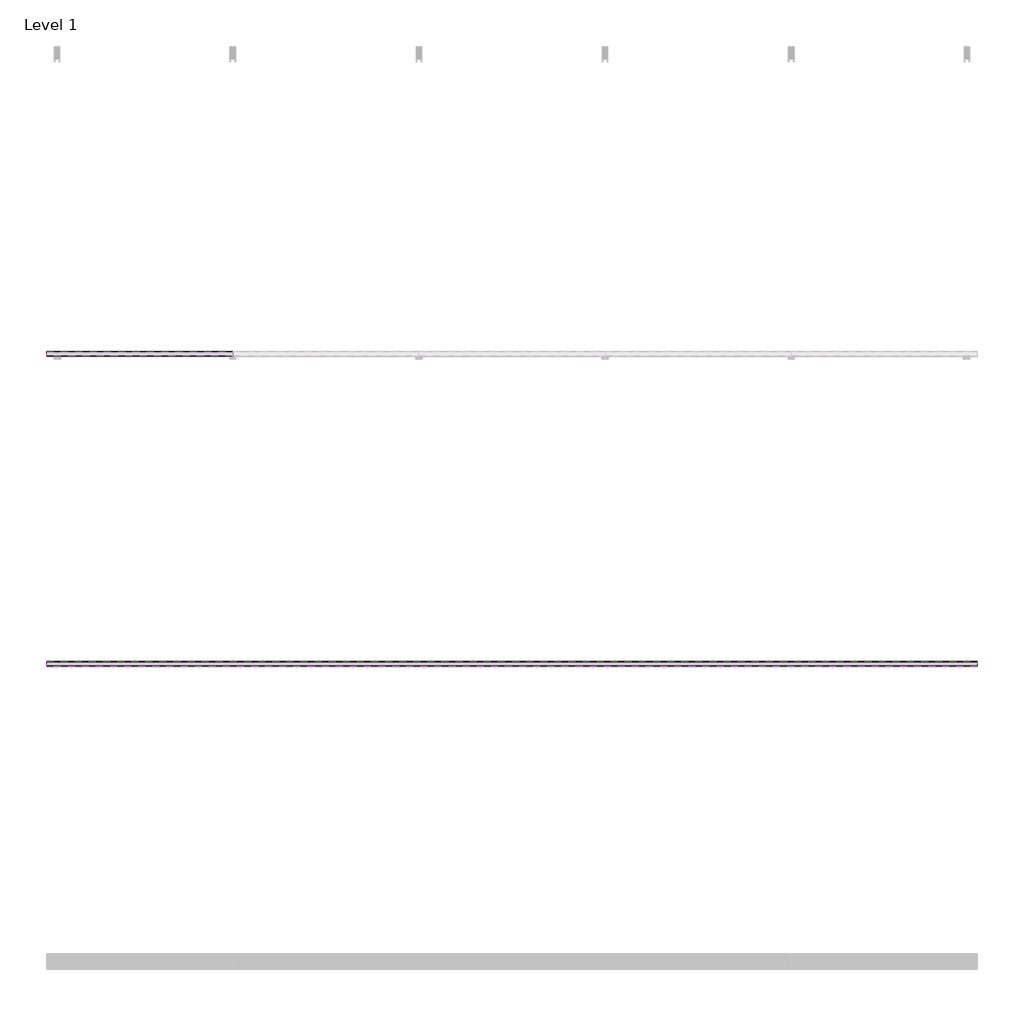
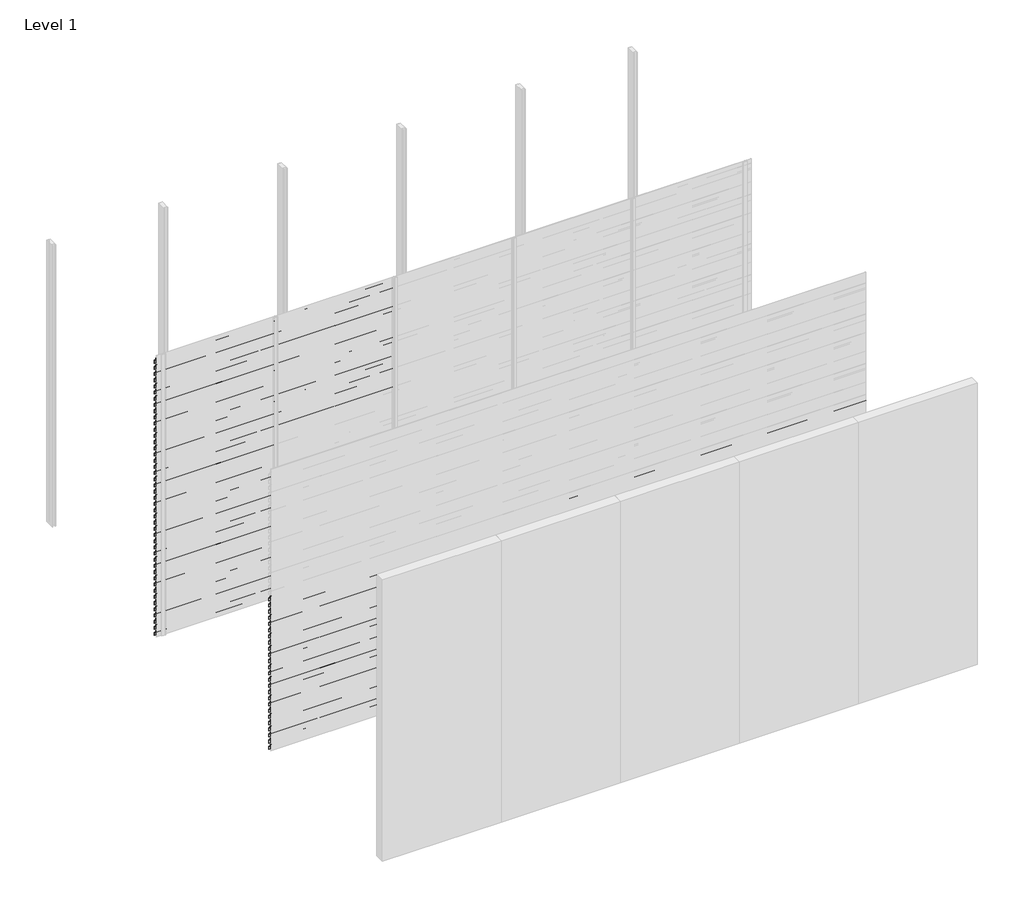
# One storey, part 19 of 33: 88 proxies.
"""IFC4 building model written with IfcOpenShell, lengths in millimetres."""

from ifc_helpers import new_model, si_unit, frame, origin, place, context, project, spatial, polyline, outline, extrude, element, save

model = new_model("IFC4")

# Units and contexts
model_context = context("Model", 3, world=origin())
ifc_project = project(units=[si_unit("LENGTHUNIT", "METRE", prefix="MILLI")], contexts=[model_context])

# Site, building, storey
site = spatial("IfcSite", under=ifc_project)
building = spatial("IfcBuilding", under=site)
storey = spatial("IfcBuildingStorey", under=building, Name="Level 1", Elevation=0.0)

# Proxies
placement = place(None, origin())
element("IfcBuildingElementProxy", 1, Name="Wall Sweeps", at=placement, inside=storey, context=model_context, shape_type="SweptSolid", body=[
    extrude(outline(polyline([(-23967.0, 2930.0), (-23967.0, 2897.0), (-23968.25, 2897.7216933), (-23968.25, 2929.2872415), (-23998.0, 2950.0588647), (-23998.0, 2970.0), (-23996.75, 2970.0), (-23996.75, 2950.7716232), (-23967.0, 2930.0)])), frame((0.0, 0.0, 0.0), z_axis=(1.0, 0.0, 0.0), x_axis=(0.0, 1.0, 0.0)), (0.0, 0.0, 1.0), 1200.0),
])
element("IfcBuildingElementProxy", 2, Name="Wall Sweeps", at=placement, inside=storey, context=model_context, shape_type="SweptSolid", body=[
    extrude(outline(polyline([(-23967.0, 2864.0), (-23967.0, 2831.0), (-23968.25, 2831.7216933), (-23968.25, 2863.2872415), (-23998.0, 2884.0588647), (-23998.0, 2904.0), (-23996.75, 2904.0), (-23996.75, 2884.7716232), (-23967.0, 2864.0)])), frame((0.0, 0.0, 0.0), z_axis=(1.0, 0.0, 0.0), x_axis=(0.0, 1.0, 0.0)), (0.0, 0.0, 1.0), 1200.0),
])
element("IfcBuildingElementProxy", 3, Name="Wall Sweeps", at=placement, inside=storey, context=model_context, shape_type="SweptSolid", body=[
    extrude(outline(polyline([(-23967.0, 2798.0), (-23967.0, 2765.0), (-23968.25, 2765.7216933), (-23968.25, 2797.2872415), (-23998.0, 2818.0588647), (-23998.0, 2838.0), (-23996.75, 2838.0), (-23996.75, 2818.7716232), (-23967.0, 2798.0)])), frame((0.0, 0.0, 0.0), z_axis=(1.0, 0.0, 0.0), x_axis=(0.0, 1.0, 0.0)), (0.0, 0.0, 1.0), 1200.0),
])
element("IfcBuildingElementProxy", 4, Name="Wall Sweeps", at=placement, inside=storey, context=model_context, shape_type="SweptSolid", body=[
    extrude(outline(polyline([(-23967.0, 2732.0), (-23967.0, 2699.0), (-23968.25, 2699.7216933), (-23968.25, 2731.2872415), (-23998.0, 2752.0588647), (-23998.0, 2772.0), (-23996.75, 2772.0), (-23996.75, 2752.7716232), (-23967.0, 2732.0)])), frame((0.0, 0.0, 0.0), z_axis=(1.0, 0.0, 0.0), x_axis=(0.0, 1.0, 0.0)), (0.0, 0.0, 1.0), 1200.0),
])
element("IfcBuildingElementProxy", 5, Name="Wall Sweeps", at=placement, inside=storey, context=model_context, shape_type="SweptSolid", body=[
    extrude(outline(polyline([(-23967.0, 2666.0), (-23967.0, 2633.0), (-23968.25, 2633.7216933), (-23968.25, 2665.2872415), (-23998.0, 2686.0588647), (-23998.0, 2706.0), (-23996.75, 2706.0), (-23996.75, 2686.7716232), (-23967.0, 2666.0)])), frame((0.0, 0.0, 0.0), z_axis=(1.0, 0.0, 0.0), x_axis=(0.0, 1.0, 0.0)), (0.0, 0.0, 1.0), 1200.0),
])
element("IfcBuildingElementProxy", 6, Name="Wall Sweeps", at=placement, inside=storey, context=model_context, shape_type="SweptSolid", body=[
    extrude(outline(polyline([(-23967.0, 2600.0), (-23967.0, 2567.0), (-23968.25, 2567.7216933), (-23968.25, 2599.2872415), (-23998.0, 2620.0588647), (-23998.0, 2640.0), (-23996.75, 2640.0), (-23996.75, 2620.7716232), (-23967.0, 2600.0)])), frame((0.0, 0.0, 0.0), z_axis=(1.0, 0.0, 0.0), x_axis=(0.0, 1.0, 0.0)), (0.0, 0.0, 1.0), 1200.0),
])
element("IfcBuildingElementProxy", 7, Name="Wall Sweeps", at=placement, inside=storey, context=model_context, shape_type="SweptSolid", body=[
    extrude(outline(polyline([(-23967.0, 2534.0), (-23967.0, 2501.0), (-23968.25, 2501.7216933), (-23968.25, 2533.2872415), (-23998.0, 2554.0588647), (-23998.0, 2574.0), (-23996.75, 2574.0), (-23996.75, 2554.7716232), (-23967.0, 2534.0)])), frame((0.0, 0.0, 0.0), z_axis=(1.0, 0.0, 0.0), x_axis=(0.0, 1.0, 0.0)), (0.0, 0.0, 1.0), 1200.0),
])
element("IfcBuildingElementProxy", 8, Name="Wall Sweeps", at=placement, inside=storey, context=model_context, shape_type="SweptSolid", body=[
    extrude(outline(polyline([(-23967.0, 2468.0), (-23967.0, 2435.0), (-23968.25, 2435.7216933), (-23968.25, 2467.2872415), (-23998.0, 2488.0588647), (-23998.0, 2508.0), (-23996.75, 2508.0), (-23996.75, 2488.7716232), (-23967.0, 2468.0)])), frame((0.0, 0.0, 0.0), z_axis=(1.0, 0.0, 0.0), x_axis=(0.0, 1.0, 0.0)), (0.0, 0.0, 1.0), 1200.0),
])
element("IfcBuildingElementProxy", 9, Name="Wall Sweeps", at=placement, inside=storey, context=model_context, shape_type="SweptSolid", body=[
    extrude(outline(polyline([(-23967.0, 2402.0), (-23967.0, 2369.0), (-23968.25, 2369.7216933), (-23968.25, 2401.2872415), (-23998.0, 2422.0588647), (-23998.0, 2442.0), (-23996.75, 2442.0), (-23996.75, 2422.7716232), (-23967.0, 2402.0)])), frame((0.0, 0.0, 0.0), z_axis=(1.0, 0.0, 0.0), x_axis=(0.0, 1.0, 0.0)), (0.0, 0.0, 1.0), 1200.0),
])
element("IfcBuildingElementProxy", 10, Name="Wall Sweeps", at=placement, inside=storey, context=model_context, shape_type="SweptSolid", body=[
    extrude(outline(polyline([(-23967.0, 2336.0), (-23967.0, 2303.0), (-23968.25, 2303.7216933), (-23968.25, 2335.2872415), (-23998.0, 2356.0588647), (-23998.0, 2376.0), (-23996.75, 2376.0), (-23996.75, 2356.7716232), (-23967.0, 2336.0)])), frame((0.0, 0.0, 0.0), z_axis=(1.0, 0.0, 0.0), x_axis=(0.0, 1.0, 0.0)), (0.0, 0.0, 1.0), 1200.0),
])
element("IfcBuildingElementProxy", 11, Name="Wall Sweeps", at=placement, inside=storey, context=model_context, shape_type="SweptSolid", body=[
    extrude(outline(polyline([(-23967.0, 2270.0), (-23967.0, 2237.0), (-23968.25, 2237.7216933), (-23968.25, 2269.2872415), (-23998.0, 2290.0588647), (-23998.0, 2310.0), (-23996.75, 2310.0), (-23996.75, 2290.7716232), (-23967.0, 2270.0)])), frame((0.0, 0.0, 0.0), z_axis=(1.0, 0.0, 0.0), x_axis=(0.0, 1.0, 0.0)), (0.0, 0.0, 1.0), 1200.0),
])
element("IfcBuildingElementProxy", 12, Name="Wall Sweeps", at=placement, inside=storey, context=model_context, shape_type="SweptSolid", body=[
    extrude(outline(polyline([(-23967.0, 2204.0), (-23967.0, 2171.0), (-23968.25, 2171.7216933), (-23968.25, 2203.2872415), (-23998.0, 2224.0588647), (-23998.0, 2244.0), (-23996.75, 2244.0), (-23996.75, 2224.7716232), (-23967.0, 2204.0)])), frame((0.0, 0.0, 0.0), z_axis=(1.0, 0.0, 0.0), x_axis=(0.0, 1.0, 0.0)), (0.0, 0.0, 1.0), 1200.0),
])
element("IfcBuildingElementProxy", 13, Name="Wall Sweeps", at=placement, inside=storey, context=model_context, shape_type="SweptSolid", body=[
    extrude(outline(polyline([(-23967.0, 2138.0), (-23967.0, 2105.0), (-23968.25, 2105.7216933), (-23968.25, 2137.2872415), (-23998.0, 2158.0588647), (-23998.0, 2178.0), (-23996.75, 2178.0), (-23996.75, 2158.7716232), (-23967.0, 2138.0)])), frame((0.0, 0.0, 0.0), z_axis=(1.0, 0.0, 0.0), x_axis=(0.0, 1.0, 0.0)), (0.0, 0.0, 1.0), 1200.0),
])
element("IfcBuildingElementProxy", 14, Name="Wall Sweeps", at=placement, inside=storey, context=model_context, shape_type="SweptSolid", body=[
    extrude(outline(polyline([(-23967.0, 2072.0), (-23967.0, 2039.0), (-23968.25, 2039.7216933), (-23968.25, 2071.2872415), (-23998.0, 2092.0588647), (-23998.0, 2112.0), (-23996.75, 2112.0), (-23996.75, 2092.7716232), (-23967.0, 2072.0)])), frame((0.0, 0.0, 0.0), z_axis=(1.0, 0.0, 0.0), x_axis=(0.0, 1.0, 0.0)), (0.0, 0.0, 1.0), 1200.0),
])
element("IfcBuildingElementProxy", 15, Name="Wall Sweeps", at=placement, inside=storey, context=model_context, shape_type="SweptSolid", body=[
    extrude(outline(polyline([(-23967.0, 2006.0), (-23967.0, 1973.0), (-23968.25, 1973.7216933), (-23968.25, 2005.2872415), (-23998.0, 2026.0588647), (-23998.0, 2046.0), (-23996.75, 2046.0), (-23996.75, 2026.7716232), (-23967.0, 2006.0)])), frame((0.0, 0.0, 0.0), z_axis=(1.0, 0.0, 0.0), x_axis=(0.0, 1.0, 0.0)), (0.0, 0.0, 1.0), 1200.0),
])
element("IfcBuildingElementProxy", 16, Name="Wall Sweeps", at=placement, inside=storey, context=model_context, shape_type="SweptSolid", body=[
    extrude(outline(polyline([(-23967.0, 1940.0), (-23967.0, 1907.0), (-23968.25, 1907.7216933), (-23968.25, 1939.2872415), (-23998.0, 1960.0588647), (-23998.0, 1980.0), (-23996.75, 1980.0), (-23996.75, 1960.7716232), (-23967.0, 1940.0)])), frame((0.0, 0.0, 0.0), z_axis=(1.0, 0.0, 0.0), x_axis=(0.0, 1.0, 0.0)), (0.0, 0.0, 1.0), 1200.0),
])
element("IfcBuildingElementProxy", 17, Name="Wall Sweeps", at=placement, inside=storey, context=model_context, shape_type="SweptSolid", body=[
    extrude(outline(polyline([(-23967.0, 1874.0), (-23967.0, 1841.0), (-23968.25, 1841.7216933), (-23968.25, 1873.2872415), (-23998.0, 1894.0588647), (-23998.0, 1914.0), (-23996.75, 1914.0), (-23996.75, 1894.7716232), (-23967.0, 1874.0)])), frame((0.0, 0.0, 0.0), z_axis=(1.0, 0.0, 0.0), x_axis=(0.0, 1.0, 0.0)), (0.0, 0.0, 1.0), 1200.0),
])
element("IfcBuildingElementProxy", 18, Name="Wall Sweeps", at=placement, inside=storey, context=model_context, shape_type="SweptSolid", body=[
    extrude(outline(polyline([(-23967.0, 1808.0), (-23967.0, 1775.0), (-23968.25, 1775.7216933), (-23968.25, 1807.2872415), (-23998.0, 1828.0588647), (-23998.0, 1848.0), (-23996.75, 1848.0), (-23996.75, 1828.7716232), (-23967.0, 1808.0)])), frame((0.0, 0.0, 0.0), z_axis=(1.0, 0.0, 0.0), x_axis=(0.0, 1.0, 0.0)), (0.0, 0.0, 1.0), 1200.0),
])
element("IfcBuildingElementProxy", 19, Name="Wall Sweeps", at=placement, inside=storey, context=model_context, shape_type="SweptSolid", body=[
    extrude(outline(polyline([(-23967.0, 1742.0), (-23967.0, 1709.0), (-23968.25, 1709.7216933), (-23968.25, 1741.2872415), (-23998.0, 1762.0588647), (-23998.0, 1782.0), (-23996.75, 1782.0), (-23996.75, 1762.7716232), (-23967.0, 1742.0)])), frame((0.0, 0.0, 0.0), z_axis=(1.0, 0.0, 0.0), x_axis=(0.0, 1.0, 0.0)), (0.0, 0.0, 1.0), 1200.0),
])
element("IfcBuildingElementProxy", 20, Name="Wall Sweeps", at=placement, inside=storey, context=model_context, shape_type="SweptSolid", body=[
    extrude(outline(polyline([(-23967.0, 1676.0), (-23967.0, 1643.0), (-23968.25, 1643.7216933), (-23968.25, 1675.2872415), (-23998.0, 1696.0588647), (-23998.0, 1716.0), (-23996.75, 1716.0), (-23996.75, 1696.7716232), (-23967.0, 1676.0)])), frame((0.0, 0.0, 0.0), z_axis=(1.0, 0.0, 0.0), x_axis=(0.0, 1.0, 0.0)), (0.0, 0.0, 1.0), 1200.0),
])
element("IfcBuildingElementProxy", 21, Name="Wall Sweeps", at=placement, inside=storey, context=model_context, shape_type="SweptSolid", body=[
    extrude(outline(polyline([(-23967.0, 1610.0), (-23967.0, 1577.0), (-23968.25, 1577.7216933), (-23968.25, 1609.2872415), (-23998.0, 1630.0588647), (-23998.0, 1650.0), (-23996.75, 1650.0), (-23996.75, 1630.7716232), (-23967.0, 1610.0)])), frame((0.0, 0.0, 0.0), z_axis=(1.0, 0.0, 0.0), x_axis=(0.0, 1.0, 0.0)), (0.0, 0.0, 1.0), 1200.0),
])
element("IfcBuildingElementProxy", 22, Name="Wall Sweeps", at=placement, inside=storey, context=model_context, shape_type="SweptSolid", body=[
    extrude(outline(polyline([(-23967.0, 1544.0), (-23967.0, 1511.0), (-23968.25, 1511.7216933), (-23968.25, 1543.2872415), (-23998.0, 1564.0588647), (-23998.0, 1584.0), (-23996.75, 1584.0), (-23996.75, 1564.7716232), (-23967.0, 1544.0)])), frame((0.0, 0.0, 0.0), z_axis=(1.0, 0.0, 0.0), x_axis=(0.0, 1.0, 0.0)), (0.0, 0.0, 1.0), 1200.0),
])
element("IfcBuildingElementProxy", 23, Name="Wall Sweeps", at=placement, inside=storey, context=model_context, shape_type="SweptSolid", body=[
    extrude(outline(polyline([(-23967.0, 1478.0), (-23967.0, 1445.0), (-23968.25, 1445.7216933), (-23968.25, 1477.2872415), (-23998.0, 1498.0588647), (-23998.0, 1518.0), (-23996.75, 1518.0), (-23996.75, 1498.7716232), (-23967.0, 1478.0)])), frame((0.0, 0.0, 0.0), z_axis=(1.0, 0.0, 0.0), x_axis=(0.0, 1.0, 0.0)), (0.0, 0.0, 1.0), 1200.0),
])
element("IfcBuildingElementProxy", 24, Name="Wall Sweeps", at=placement, inside=storey, context=model_context, shape_type="SweptSolid", body=[
    extrude(outline(polyline([(-23967.0, 1412.0), (-23967.0, 1379.0), (-23968.25, 1379.7216933), (-23968.25, 1411.2872415), (-23998.0, 1432.0588647), (-23998.0, 1452.0), (-23996.75, 1452.0), (-23996.75, 1432.7716232), (-23967.0, 1412.0)])), frame((0.0, 0.0, 0.0), z_axis=(1.0, 0.0, 0.0), x_axis=(0.0, 1.0, 0.0)), (0.0, 0.0, 1.0), 1200.0),
])
element("IfcBuildingElementProxy", 25, Name="Wall Sweeps", at=placement, inside=storey, context=model_context, shape_type="SweptSolid", body=[
    extrude(outline(polyline([(-23967.0, 1346.0), (-23967.0, 1313.0), (-23968.25, 1313.7216933), (-23968.25, 1345.2872415), (-23998.0, 1366.0588647), (-23998.0, 1386.0), (-23996.75, 1386.0), (-23996.75, 1366.7716232), (-23967.0, 1346.0)])), frame((0.0, 0.0, 0.0), z_axis=(1.0, 0.0, 0.0), x_axis=(0.0, 1.0, 0.0)), (0.0, 0.0, 1.0), 1200.0),
])
element("IfcBuildingElementProxy", 26, Name="Wall Sweeps", at=placement, inside=storey, context=model_context, shape_type="SweptSolid", body=[
    extrude(outline(polyline([(-23967.0, 1280.0), (-23967.0, 1247.0), (-23968.25, 1247.7216933), (-23968.25, 1279.2872415), (-23998.0, 1300.0588647), (-23998.0, 1320.0), (-23996.75, 1320.0), (-23996.75, 1300.7716232), (-23967.0, 1280.0)])), frame((0.0, 0.0, 0.0), z_axis=(1.0, 0.0, 0.0), x_axis=(0.0, 1.0, 0.0)), (0.0, 0.0, 1.0), 1200.0),
])
element("IfcBuildingElementProxy", 27, Name="Wall Sweeps", at=placement, inside=storey, context=model_context, shape_type="SweptSolid", body=[
    extrude(outline(polyline([(-23967.0, 1214.0), (-23967.0, 1181.0), (-23968.25, 1181.7216933), (-23968.25, 1213.2872415), (-23998.0, 1234.0588647), (-23998.0, 1254.0), (-23996.75, 1254.0), (-23996.75, 1234.7716232), (-23967.0, 1214.0)])), frame((0.0, 0.0, 0.0), z_axis=(1.0, 0.0, 0.0), x_axis=(0.0, 1.0, 0.0)), (0.0, 0.0, 1.0), 1200.0),
])
element("IfcBuildingElementProxy", 28, Name="Wall Sweeps", at=placement, inside=storey, context=model_context, shape_type="SweptSolid", body=[
    extrude(outline(polyline([(-23967.0, 1148.0), (-23967.0, 1115.0), (-23968.25, 1115.7216933), (-23968.25, 1147.2872415), (-23998.0, 1168.0588647), (-23998.0, 1188.0), (-23996.75, 1188.0), (-23996.75, 1168.7716232), (-23967.0, 1148.0)])), frame((0.0, 0.0, 0.0), z_axis=(1.0, 0.0, 0.0), x_axis=(0.0, 1.0, 0.0)), (0.0, 0.0, 1.0), 1200.0),
])
element("IfcBuildingElementProxy", 29, Name="Wall Sweeps", at=placement, inside=storey, context=model_context, shape_type="SweptSolid", body=[
    extrude(outline(polyline([(-23967.0, 1082.0), (-23967.0, 1049.0), (-23968.25, 1049.7216933), (-23968.25, 1081.2872415), (-23998.0, 1102.0588647), (-23998.0, 1122.0), (-23996.75, 1122.0), (-23996.75, 1102.7716232), (-23967.0, 1082.0)])), frame((0.0, 0.0, 0.0), z_axis=(1.0, 0.0, 0.0), x_axis=(0.0, 1.0, 0.0)), (0.0, 0.0, 1.0), 1200.0),
])
element("IfcBuildingElementProxy", 30, Name="Wall Sweeps", at=placement, inside=storey, context=model_context, shape_type="SweptSolid", body=[
    extrude(outline(polyline([(-23967.0, 1016.0), (-23967.0, 983.0), (-23968.25, 983.7216933), (-23968.25, 1015.2872415), (-23998.0, 1036.0588647), (-23998.0, 1056.0), (-23996.75, 1056.0), (-23996.75, 1036.7716232), (-23967.0, 1016.0)])), frame((0.0, 0.0, 0.0), z_axis=(1.0, 0.0, 0.0), x_axis=(0.0, 1.0, 0.0)), (0.0, 0.0, 1.0), 1200.0),
])
element("IfcBuildingElementProxy", 31, Name="Wall Sweeps", at=placement, inside=storey, context=model_context, shape_type="SweptSolid", body=[
    extrude(outline(polyline([(-23967.0, 950.0), (-23967.0, 917.0), (-23968.25, 917.7216933), (-23968.25, 949.2872415), (-23998.0, 970.0588647), (-23998.0, 990.0), (-23996.75, 990.0), (-23996.75, 970.7716232), (-23967.0, 950.0)])), frame((0.0, 0.0, 0.0), z_axis=(1.0, 0.0, 0.0), x_axis=(0.0, 1.0, 0.0)), (0.0, 0.0, 1.0), 1200.0),
])
element("IfcBuildingElementProxy", 32, Name="Wall Sweeps", at=placement, inside=storey, context=model_context, shape_type="SweptSolid", body=[
    extrude(outline(polyline([(-23967.0, 884.0), (-23967.0, 851.0), (-23968.25, 851.7216933), (-23968.25, 883.2872415), (-23998.0, 904.0588647), (-23998.0, 924.0), (-23996.75, 924.0), (-23996.75, 904.7716232), (-23967.0, 884.0)])), frame((0.0, 0.0, 0.0), z_axis=(1.0, 0.0, 0.0), x_axis=(0.0, 1.0, 0.0)), (0.0, 0.0, 1.0), 1200.0),
])
element("IfcBuildingElementProxy", 33, Name="Wall Sweeps", at=placement, inside=storey, context=model_context, shape_type="SweptSolid", body=[
    extrude(outline(polyline([(-23967.0, 818.0), (-23967.0, 785.0), (-23968.25, 785.7216933), (-23968.25, 817.2872415), (-23998.0, 838.0588647), (-23998.0, 858.0), (-23996.75, 858.0), (-23996.75, 838.7716232), (-23967.0, 818.0)])), frame((0.0, 0.0, 0.0), z_axis=(1.0, 0.0, 0.0), x_axis=(0.0, 1.0, 0.0)), (0.0, 0.0, 1.0), 1200.0),
])
element("IfcBuildingElementProxy", 34, Name="Wall Sweeps", at=placement, inside=storey, context=model_context, shape_type="SweptSolid", body=[
    extrude(outline(polyline([(-23967.0, 752.0), (-23967.0, 719.0), (-23968.25, 719.7216933), (-23968.25, 751.2872415), (-23998.0, 772.0588647), (-23998.0, 792.0), (-23996.75, 792.0), (-23996.75, 772.7716232), (-23967.0, 752.0)])), frame((0.0, 0.0, 0.0), z_axis=(1.0, 0.0, 0.0), x_axis=(0.0, 1.0, 0.0)), (0.0, 0.0, 1.0), 1200.0),
])
element("IfcBuildingElementProxy", 35, Name="Wall Sweeps", at=placement, inside=storey, context=model_context, shape_type="SweptSolid", body=[
    extrude(outline(polyline([(-23967.0, 686.0), (-23967.0, 653.0), (-23968.25, 653.7216933), (-23968.25, 685.2872415), (-23998.0, 706.0588647), (-23998.0, 726.0), (-23996.75, 726.0), (-23996.75, 706.7716232), (-23967.0, 686.0)])), frame((0.0, 0.0, 0.0), z_axis=(1.0, 0.0, 0.0), x_axis=(0.0, 1.0, 0.0)), (0.0, 0.0, 1.0), 1200.0),
])
element("IfcBuildingElementProxy", 36, Name="Wall Sweeps", at=placement, inside=storey, context=model_context, shape_type="SweptSolid", body=[
    extrude(outline(polyline([(-23967.0, 620.0), (-23967.0, 587.0), (-23968.25, 587.7216933), (-23968.25, 619.2872415), (-23998.0, 640.0588647), (-23998.0, 660.0), (-23996.75, 660.0), (-23996.75, 640.7716232), (-23967.0, 620.0)])), frame((0.0, 0.0, 0.0), z_axis=(1.0, 0.0, 0.0), x_axis=(0.0, 1.0, 0.0)), (0.0, 0.0, 1.0), 1200.0),
])
element("IfcBuildingElementProxy", 37, Name="Wall Sweeps", at=placement, inside=storey, context=model_context, shape_type="SweptSolid", body=[
    extrude(outline(polyline([(-23967.0, 554.0), (-23967.0, 521.0), (-23968.25, 521.7216933), (-23968.25, 553.2872415), (-23998.0, 574.0588647), (-23998.0, 594.0), (-23996.75, 594.0), (-23996.75, 574.7716232), (-23967.0, 554.0)])), frame((0.0, 0.0, 0.0), z_axis=(1.0, 0.0, 0.0), x_axis=(0.0, 1.0, 0.0)), (0.0, 0.0, 1.0), 1200.0),
])
element("IfcBuildingElementProxy", 38, Name="Wall Sweeps", at=placement, inside=storey, context=model_context, shape_type="SweptSolid", body=[
    extrude(outline(polyline([(-23967.0, 488.0), (-23967.0, 455.0), (-23968.25, 455.7216933), (-23968.25, 487.2872415), (-23998.0, 508.0588647), (-23998.0, 528.0), (-23996.75, 528.0), (-23996.75, 508.7716232), (-23967.0, 488.0)])), frame((0.0, 0.0, 0.0), z_axis=(1.0, 0.0, 0.0), x_axis=(0.0, 1.0, 0.0)), (0.0, 0.0, 1.0), 1200.0),
])
element("IfcBuildingElementProxy", 39, Name="Wall Sweeps", at=placement, inside=storey, context=model_context, shape_type="SweptSolid", body=[
    extrude(outline(polyline([(-23967.0, 422.0), (-23967.0, 389.0), (-23968.25, 389.7216933), (-23968.25, 421.2872415), (-23998.0, 442.0588647), (-23998.0, 462.0), (-23996.75, 462.0), (-23996.75, 442.7716232), (-23967.0, 422.0)])), frame((0.0, 0.0, 0.0), z_axis=(1.0, 0.0, 0.0), x_axis=(0.0, 1.0, 0.0)), (0.0, 0.0, 1.0), 1200.0),
])
element("IfcBuildingElementProxy", 40, Name="Wall Sweeps", at=placement, inside=storey, context=model_context, shape_type="SweptSolid", body=[
    extrude(outline(polyline([(-23967.0, 356.0), (-23967.0, 323.0), (-23968.25, 323.7216933), (-23968.25, 355.2872415), (-23998.0, 376.0588647), (-23998.0, 396.0), (-23996.75, 396.0), (-23996.75, 376.7716232), (-23967.0, 356.0)])), frame((0.0, 0.0, 0.0), z_axis=(1.0, 0.0, 0.0), x_axis=(0.0, 1.0, 0.0)), (0.0, 0.0, 1.0), 1200.0),
])
element("IfcBuildingElementProxy", 41, Name="Wall Sweeps", at=placement, inside=storey, context=model_context, shape_type="SweptSolid", body=[
    extrude(outline(polyline([(-23967.0, 290.0), (-23967.0, 257.0), (-23968.25, 257.7216933), (-23968.25, 289.2872415), (-23998.0, 310.0588647), (-23998.0, 330.0), (-23996.75, 330.0), (-23996.75, 310.7716232), (-23967.0, 290.0)])), frame((0.0, 0.0, 0.0), z_axis=(1.0, 0.0, 0.0), x_axis=(0.0, 1.0, 0.0)), (0.0, 0.0, 1.0), 1200.0),
])
element("IfcBuildingElementProxy", 42, Name="Wall Sweeps", at=placement, inside=storey, context=model_context, shape_type="SweptSolid", body=[
    extrude(outline(polyline([(-23967.0, 224.0), (-23967.0, 191.0), (-23968.25, 191.7216933), (-23968.25, 223.2872415), (-23998.0, 244.0588647), (-23998.0, 264.0), (-23996.75, 264.0), (-23996.75, 244.7716232), (-23967.0, 224.0)])), frame((0.0, 0.0, 0.0), z_axis=(1.0, 0.0, 0.0), x_axis=(0.0, 1.0, 0.0)), (0.0, 0.0, 1.0), 1200.0),
])
element("IfcBuildingElementProxy", 43, Name="Wall Sweeps", at=placement, inside=storey, context=model_context, shape_type="SweptSolid", body=[
    extrude(outline(polyline([(-23967.0, 158.0), (-23967.0, 125.0), (-23968.25, 125.7216933), (-23968.25, 157.2872415), (-23998.0, 178.0588647), (-23998.0, 198.0), (-23996.75, 198.0), (-23996.75, 178.7716232), (-23967.0, 158.0)])), frame((0.0, 0.0, 0.0), z_axis=(1.0, 0.0, 0.0), x_axis=(0.0, 1.0, 0.0)), (0.0, 0.0, 1.0), 1200.0),
])
element("IfcBuildingElementProxy", 44, Name="Wall Sweeps", at=placement, inside=storey, context=model_context, shape_type="SweptSolid", body=[
    extrude(outline(polyline([(-23967.0, 92.0), (-23967.0, 59.0), (-23968.25, 59.7216933), (-23968.25, 91.2872415), (-23998.0, 112.0588647), (-23998.0, 132.0), (-23996.75, 132.0), (-23996.75, 112.7716232), (-23967.0, 92.0)])), frame((0.0, 0.0, 0.0), z_axis=(1.0, 0.0, 0.0), x_axis=(0.0, 1.0, 0.0)), (0.0, 0.0, 1.0), 1200.0),
])
element("IfcBuildingElementProxy", 45, Name="Wall Sweeps", at=placement, inside=storey, context=model_context, shape_type="SweptSolid", body=[
    extrude(outline(polyline([(-23967.0, 26.0), (-23967.0, -7.0), (-23968.25, -6.2783067), (-23968.25, 25.2872415), (-23998.0, 46.0588647), (-23998.0, 66.0), (-23996.75, 66.0), (-23996.75, 46.7716232), (-23967.0, 26.0)])), frame((0.0, 0.0, 0.0), z_axis=(1.0, 0.0, 0.0), x_axis=(0.0, 1.0, 0.0)), (0.0, 0.0, 1.0), 1200.0),
])
element("IfcBuildingElementProxy", 46, Name="Wall Sweeps", at=placement, inside=storey, context=model_context, shape_type="SweptSolid", body=[
    extrude(outline(polyline([(-23967.0, 2930.0), (-23967.0, 2897.0), (-23968.25, 2897.7216933), (-23968.25, 2929.2872415), (-23998.0, 2950.0588647), (-23998.0, 2970.0), (-23996.75, 2970.0), (-23996.75, 2950.7716232), (-23967.0, 2930.0)])), frame((1200.0, 0.0, 0.0), z_axis=(1.0, 0.0, 0.0), x_axis=(0.0, 1.0, 0.0)), (0.0, 0.0, 1.0), 1200.0),
])
element("IfcBuildingElementProxy", 47, Name="Wall Sweeps", at=placement, inside=storey, context=model_context, shape_type="SweptSolid", body=[
    extrude(outline(polyline([(-23967.0, 2864.0), (-23967.0, 2831.0), (-23968.25, 2831.7216933), (-23968.25, 2863.2872415), (-23998.0, 2884.0588647), (-23998.0, 2904.0), (-23996.75, 2904.0), (-23996.75, 2884.7716232), (-23967.0, 2864.0)])), frame((1200.0, 0.0, 0.0), z_axis=(1.0, 0.0, 0.0), x_axis=(0.0, 1.0, 0.0)), (0.0, 0.0, 1.0), 1200.0),
])
element("IfcBuildingElementProxy", 48, Name="Wall Sweeps", at=placement, inside=storey, context=model_context, shape_type="SweptSolid", body=[
    extrude(outline(polyline([(-23967.0, 2798.0), (-23967.0, 2765.0), (-23968.25, 2765.7216933), (-23968.25, 2797.2872415), (-23998.0, 2818.0588647), (-23998.0, 2838.0), (-23996.75, 2838.0), (-23996.75, 2818.7716232), (-23967.0, 2798.0)])), frame((1200.0, 0.0, 0.0), z_axis=(1.0, 0.0, 0.0), x_axis=(0.0, 1.0, 0.0)), (0.0, 0.0, 1.0), 1200.0),
])
element("IfcBuildingElementProxy", 49, Name="Wall Sweeps", at=placement, inside=storey, context=model_context, shape_type="SweptSolid", body=[
    extrude(outline(polyline([(-23967.0, 2732.0), (-23967.0, 2699.0), (-23968.25, 2699.7216933), (-23968.25, 2731.2872415), (-23998.0, 2752.0588647), (-23998.0, 2772.0), (-23996.75, 2772.0), (-23996.75, 2752.7716232), (-23967.0, 2732.0)])), frame((1200.0, 0.0, 0.0), z_axis=(1.0, 0.0, 0.0), x_axis=(0.0, 1.0, 0.0)), (0.0, 0.0, 1.0), 1200.0),
])
element("IfcBuildingElementProxy", 50, Name="Wall Sweeps", at=placement, inside=storey, context=model_context, shape_type="SweptSolid", body=[
    extrude(outline(polyline([(-23967.0, 2666.0), (-23967.0, 2633.0), (-23968.25, 2633.7216933), (-23968.25, 2665.2872415), (-23998.0, 2686.0588647), (-23998.0, 2706.0), (-23996.75, 2706.0), (-23996.75, 2686.7716232), (-23967.0, 2666.0)])), frame((1200.0, 0.0, 0.0), z_axis=(1.0, 0.0, 0.0), x_axis=(0.0, 1.0, 0.0)), (0.0, 0.0, 1.0), 1200.0),
])
element("IfcBuildingElementProxy", 51, Name="Wall Sweeps", at=placement, inside=storey, context=model_context, shape_type="SweptSolid", body=[
    extrude(outline(polyline([(-23967.0, 2600.0), (-23967.0, 2567.0), (-23968.25, 2567.7216933), (-23968.25, 2599.2872415), (-23998.0, 2620.0588647), (-23998.0, 2640.0), (-23996.75, 2640.0), (-23996.75, 2620.7716232), (-23967.0, 2600.0)])), frame((1200.0, 0.0, 0.0), z_axis=(1.0, 0.0, 0.0), x_axis=(0.0, 1.0, 0.0)), (0.0, 0.0, 1.0), 1200.0),
])
element("IfcBuildingElementProxy", 52, Name="Wall Sweeps", at=placement, inside=storey, context=model_context, shape_type="SweptSolid", body=[
    extrude(outline(polyline([(-23967.0, 2534.0), (-23967.0, 2501.0), (-23968.25, 2501.7216933), (-23968.25, 2533.2872415), (-23998.0, 2554.0588647), (-23998.0, 2574.0), (-23996.75, 2574.0), (-23996.75, 2554.7716232), (-23967.0, 2534.0)])), frame((1200.0, 0.0, 0.0), z_axis=(1.0, 0.0, 0.0), x_axis=(0.0, 1.0, 0.0)), (0.0, 0.0, 1.0), 1200.0),
])
element("IfcBuildingElementProxy", 53, Name="Wall Sweeps", at=placement, inside=storey, context=model_context, shape_type="SweptSolid", body=[
    extrude(outline(polyline([(-23967.0, 2468.0), (-23967.0, 2435.0), (-23968.25, 2435.7216933), (-23968.25, 2467.2872415), (-23998.0, 2488.0588647), (-23998.0, 2508.0), (-23996.75, 2508.0), (-23996.75, 2488.7716232), (-23967.0, 2468.0)])), frame((1200.0, 0.0, 0.0), z_axis=(1.0, 0.0, 0.0), x_axis=(0.0, 1.0, 0.0)), (0.0, 0.0, 1.0), 1200.0),
])
element("IfcBuildingElementProxy", 54, Name="Wall Sweeps", at=placement, inside=storey, context=model_context, shape_type="SweptSolid", body=[
    extrude(outline(polyline([(-23967.0, 2402.0), (-23967.0, 2369.0), (-23968.25, 2369.7216933), (-23968.25, 2401.2872415), (-23998.0, 2422.0588647), (-23998.0, 2442.0), (-23996.75, 2442.0), (-23996.75, 2422.7716232), (-23967.0, 2402.0)])), frame((1200.0, 0.0, 0.0), z_axis=(1.0, 0.0, 0.0), x_axis=(0.0, 1.0, 0.0)), (0.0, 0.0, 1.0), 1200.0),
])
element("IfcBuildingElementProxy", 55, Name="Wall Sweeps", at=placement, inside=storey, context=model_context, shape_type="SweptSolid", body=[
    extrude(outline(polyline([(-23967.0, 2336.0), (-23967.0, 2303.0), (-23968.25, 2303.7216933), (-23968.25, 2335.2872415), (-23998.0, 2356.0588647), (-23998.0, 2376.0), (-23996.75, 2376.0), (-23996.75, 2356.7716232), (-23967.0, 2336.0)])), frame((1200.0, 0.0, 0.0), z_axis=(1.0, 0.0, 0.0), x_axis=(0.0, 1.0, 0.0)), (0.0, 0.0, 1.0), 1200.0),
])
element("IfcBuildingElementProxy", 56, Name="Wall Sweeps", at=placement, inside=storey, context=model_context, shape_type="SweptSolid", body=[
    extrude(outline(polyline([(-23967.0, 2270.0), (-23967.0, 2237.0), (-23968.25, 2237.7216933), (-23968.25, 2269.2872415), (-23998.0, 2290.0588647), (-23998.0, 2310.0), (-23996.75, 2310.0), (-23996.75, 2290.7716232), (-23967.0, 2270.0)])), frame((1200.0, 0.0, 0.0), z_axis=(1.0, 0.0, 0.0), x_axis=(0.0, 1.0, 0.0)), (0.0, 0.0, 1.0), 1200.0),
])
element("IfcBuildingElementProxy", 57, Name="Wall Sweeps", at=placement, inside=storey, context=model_context, shape_type="SweptSolid", body=[
    extrude(outline(polyline([(-23967.0, 2204.0), (-23967.0, 2171.0), (-23968.25, 2171.7216933), (-23968.25, 2203.2872415), (-23998.0, 2224.0588647), (-23998.0, 2244.0), (-23996.75, 2244.0), (-23996.75, 2224.7716232), (-23967.0, 2204.0)])), frame((1200.0, 0.0, 0.0), z_axis=(1.0, 0.0, 0.0), x_axis=(0.0, 1.0, 0.0)), (0.0, 0.0, 1.0), 1200.0),
])
element("IfcBuildingElementProxy", 58, Name="Wall Sweeps", at=placement, inside=storey, context=model_context, shape_type="SweptSolid", body=[
    extrude(outline(polyline([(-23967.0, 2138.0), (-23967.0, 2105.0), (-23968.25, 2105.7216933), (-23968.25, 2137.2872415), (-23998.0, 2158.0588647), (-23998.0, 2178.0), (-23996.75, 2178.0), (-23996.75, 2158.7716232), (-23967.0, 2138.0)])), frame((1200.0, 0.0, 0.0), z_axis=(1.0, 0.0, 0.0), x_axis=(0.0, 1.0, 0.0)), (0.0, 0.0, 1.0), 1200.0),
])
element("IfcBuildingElementProxy", 59, Name="Wall Sweeps", at=placement, inside=storey, context=model_context, shape_type="SweptSolid", body=[
    extrude(outline(polyline([(-23967.0, 2072.0), (-23967.0, 2039.0), (-23968.25, 2039.7216933), (-23968.25, 2071.2872415), (-23998.0, 2092.0588647), (-23998.0, 2112.0), (-23996.75, 2112.0), (-23996.75, 2092.7716232), (-23967.0, 2072.0)])), frame((1200.0, 0.0, 0.0), z_axis=(1.0, 0.0, 0.0), x_axis=(0.0, 1.0, 0.0)), (0.0, 0.0, 1.0), 1200.0),
])
element("IfcBuildingElementProxy", 60, Name="Wall Sweeps", at=placement, inside=storey, context=model_context, shape_type="SweptSolid", body=[
    extrude(outline(polyline([(-23967.0, 2006.0), (-23967.0, 1973.0), (-23968.25, 1973.7216933), (-23968.25, 2005.2872415), (-23998.0, 2026.0588647), (-23998.0, 2046.0), (-23996.75, 2046.0), (-23996.75, 2026.7716232), (-23967.0, 2006.0)])), frame((1200.0, 0.0, 0.0), z_axis=(1.0, 0.0, 0.0), x_axis=(0.0, 1.0, 0.0)), (0.0, 0.0, 1.0), 1200.0),
])
element("IfcBuildingElementProxy", 61, Name="Wall Sweeps", at=placement, inside=storey, context=model_context, shape_type="SweptSolid", body=[
    extrude(outline(polyline([(-23967.0, 1940.0), (-23967.0, 1907.0), (-23968.25, 1907.7216933), (-23968.25, 1939.2872415), (-23998.0, 1960.0588647), (-23998.0, 1980.0), (-23996.75, 1980.0), (-23996.75, 1960.7716232), (-23967.0, 1940.0)])), frame((1200.0, 0.0, 0.0), z_axis=(1.0, 0.0, 0.0), x_axis=(0.0, 1.0, 0.0)), (0.0, 0.0, 1.0), 1200.0),
])
element("IfcBuildingElementProxy", 62, Name="Wall Sweeps", at=placement, inside=storey, context=model_context, shape_type="SweptSolid", body=[
    extrude(outline(polyline([(-23967.0, 1874.0), (-23967.0, 1841.0), (-23968.25, 1841.7216933), (-23968.25, 1873.2872415), (-23998.0, 1894.0588647), (-23998.0, 1914.0), (-23996.75, 1914.0), (-23996.75, 1894.7716232), (-23967.0, 1874.0)])), frame((1200.0, 0.0, 0.0), z_axis=(1.0, 0.0, 0.0), x_axis=(0.0, 1.0, 0.0)), (0.0, 0.0, 1.0), 1200.0),
])
element("IfcBuildingElementProxy", 63, Name="Wall Sweeps", at=placement, inside=storey, context=model_context, shape_type="SweptSolid", body=[
    extrude(outline(polyline([(-23967.0, 1808.0), (-23967.0, 1775.0), (-23968.25, 1775.7216933), (-23968.25, 1807.2872415), (-23998.0, 1828.0588647), (-23998.0, 1848.0), (-23996.75, 1848.0), (-23996.75, 1828.7716232), (-23967.0, 1808.0)])), frame((1200.0, 0.0, 0.0), z_axis=(1.0, 0.0, 0.0), x_axis=(0.0, 1.0, 0.0)), (0.0, 0.0, 1.0), 1200.0),
])
element("IfcBuildingElementProxy", 64, Name="Wall Sweeps", at=placement, inside=storey, context=model_context, shape_type="SweptSolid", body=[
    extrude(outline(polyline([(-25967.0, 1610.0), (-25967.0, 1577.0), (-25968.25, 1577.7216933), (-25968.25, 1609.2872415), (-25998.0, 1630.0588647), (-25998.0, 1650.0), (-25996.75, 1650.0), (-25996.75, 1630.7716232), (-25967.0, 1610.0)])), frame((0.0, 0.0, 0.0), z_axis=(1.0, 0.0, 0.0), x_axis=(0.0, 1.0, 0.0)), (0.0, 0.0, 1.0), 6000.0),
])
element("IfcBuildingElementProxy", 65, Name="Wall Sweeps", at=placement, inside=storey, context=model_context, shape_type="SweptSolid", body=[
    extrude(outline(polyline([(-25967.0, 1544.0), (-25967.0, 1511.0), (-25968.25, 1511.7216933), (-25968.25, 1543.2872415), (-25998.0, 1564.0588647), (-25998.0, 1584.0), (-25996.75, 1584.0), (-25996.75, 1564.7716232), (-25967.0, 1544.0)])), frame((0.0, 0.0, 0.0), z_axis=(1.0, 0.0, 0.0), x_axis=(0.0, 1.0, 0.0)), (0.0, 0.0, 1.0), 6000.0),
])
element("IfcBuildingElementProxy", 66, Name="Wall Sweeps", at=placement, inside=storey, context=model_context, shape_type="SweptSolid", body=[
    extrude(outline(polyline([(-25967.0, 1478.0), (-25967.0, 1445.0), (-25968.25, 1445.7216933), (-25968.25, 1477.2872415), (-25998.0, 1498.0588647), (-25998.0, 1518.0), (-25996.75, 1518.0), (-25996.75, 1498.7716232), (-25967.0, 1478.0)])), frame((0.0, 0.0, 0.0), z_axis=(1.0, 0.0, 0.0), x_axis=(0.0, 1.0, 0.0)), (0.0, 0.0, 1.0), 6000.0),
])
element("IfcBuildingElementProxy", 67, Name="Wall Sweeps", at=placement, inside=storey, context=model_context, shape_type="SweptSolid", body=[
    extrude(outline(polyline([(-25967.0, 1412.0), (-25967.0, 1379.0), (-25968.25, 1379.7216933), (-25968.25, 1411.2872415), (-25998.0, 1432.0588647), (-25998.0, 1452.0), (-25996.75, 1452.0), (-25996.75, 1432.7716232), (-25967.0, 1412.0)])), frame((0.0, 0.0, 0.0), z_axis=(1.0, 0.0, 0.0), x_axis=(0.0, 1.0, 0.0)), (0.0, 0.0, 1.0), 6000.0),
])
element("IfcBuildingElementProxy", 68, Name="Wall Sweeps", at=placement, inside=storey, context=model_context, shape_type="SweptSolid", body=[
    extrude(outline(polyline([(-25967.0, 1346.0), (-25967.0, 1313.0), (-25968.25, 1313.7216933), (-25968.25, 1345.2872415), (-25998.0, 1366.0588647), (-25998.0, 1386.0), (-25996.75, 1386.0), (-25996.75, 1366.7716232), (-25967.0, 1346.0)])), frame((0.0, 0.0, 0.0), z_axis=(1.0, 0.0, 0.0), x_axis=(0.0, 1.0, 0.0)), (0.0, 0.0, 1.0), 6000.0),
])
element("IfcBuildingElementProxy", 69, Name="Wall Sweeps", at=placement, inside=storey, context=model_context, shape_type="SweptSolid", body=[
    extrude(outline(polyline([(-25967.0, 1280.0), (-25967.0, 1247.0), (-25968.25, 1247.7216933), (-25968.25, 1279.2872415), (-25998.0, 1300.0588647), (-25998.0, 1320.0), (-25996.75, 1320.0), (-25996.75, 1300.7716232), (-25967.0, 1280.0)])), frame((0.0, 0.0, 0.0), z_axis=(1.0, 0.0, 0.0), x_axis=(0.0, 1.0, 0.0)), (0.0, 0.0, 1.0), 6000.0),
])
element("IfcBuildingElementProxy", 70, Name="Wall Sweeps", at=placement, inside=storey, context=model_context, shape_type="SweptSolid", body=[
    extrude(outline(polyline([(-25967.0, 1214.0), (-25967.0, 1181.0), (-25968.25, 1181.7216933), (-25968.25, 1213.2872415), (-25998.0, 1234.0588647), (-25998.0, 1254.0), (-25996.75, 1254.0), (-25996.75, 1234.7716232), (-25967.0, 1214.0)])), frame((0.0, 0.0, 0.0), z_axis=(1.0, 0.0, 0.0), x_axis=(0.0, 1.0, 0.0)), (0.0, 0.0, 1.0), 6000.0),
])
element("IfcBuildingElementProxy", 71, Name="Wall Sweeps", at=placement, inside=storey, context=model_context, shape_type="SweptSolid", body=[
    extrude(outline(polyline([(-25967.0, 1148.0), (-25967.0, 1115.0), (-25968.25, 1115.7216933), (-25968.25, 1147.2872415), (-25998.0, 1168.0588647), (-25998.0, 1188.0), (-25996.75, 1188.0), (-25996.75, 1168.7716232), (-25967.0, 1148.0)])), frame((0.0, 0.0, 0.0), z_axis=(1.0, 0.0, 0.0), x_axis=(0.0, 1.0, 0.0)), (0.0, 0.0, 1.0), 6000.0),
])
element("IfcBuildingElementProxy", 72, Name="Wall Sweeps", at=placement, inside=storey, context=model_context, shape_type="SweptSolid", body=[
    extrude(outline(polyline([(-25967.0, 1082.0), (-25967.0, 1049.0), (-25968.25, 1049.7216933), (-25968.25, 1081.2872415), (-25998.0, 1102.0588647), (-25998.0, 1122.0), (-25996.75, 1122.0), (-25996.75, 1102.7716232), (-25967.0, 1082.0)])), frame((0.0, 0.0, 0.0), z_axis=(1.0, 0.0, 0.0), x_axis=(0.0, 1.0, 0.0)), (0.0, 0.0, 1.0), 6000.0),
])
element("IfcBuildingElementProxy", 73, Name="Wall Sweeps", at=placement, inside=storey, context=model_context, shape_type="SweptSolid", body=[
    extrude(outline(polyline([(-25967.0, 1016.0), (-25967.0, 983.0), (-25968.25, 983.7216933), (-25968.25, 1015.2872415), (-25998.0, 1036.0588647), (-25998.0, 1056.0), (-25996.75, 1056.0), (-25996.75, 1036.7716232), (-25967.0, 1016.0)])), frame((0.0, 0.0, 0.0), z_axis=(1.0, 0.0, 0.0), x_axis=(0.0, 1.0, 0.0)), (0.0, 0.0, 1.0), 6000.0),
])
element("IfcBuildingElementProxy", 74, Name="Wall Sweeps", at=placement, inside=storey, context=model_context, shape_type="SweptSolid", body=[
    extrude(outline(polyline([(-25967.0, 950.0), (-25967.0, 917.0), (-25968.25, 917.7216933), (-25968.25, 949.2872415), (-25998.0, 970.0588647), (-25998.0, 990.0), (-25996.75, 990.0), (-25996.75, 970.7716232), (-25967.0, 950.0)])), frame((0.0, 0.0, 0.0), z_axis=(1.0, 0.0, 0.0), x_axis=(0.0, 1.0, 0.0)), (0.0, 0.0, 1.0), 6000.0),
])
element("IfcBuildingElementProxy", 75, Name="Wall Sweeps", at=placement, inside=storey, context=model_context, shape_type="SweptSolid", body=[
    extrude(outline(polyline([(-25967.0, 884.0), (-25967.0, 851.0), (-25968.25, 851.7216933), (-25968.25, 883.2872415), (-25998.0, 904.0588647), (-25998.0, 924.0), (-25996.75, 924.0), (-25996.75, 904.7716232), (-25967.0, 884.0)])), frame((0.0, 0.0, 0.0), z_axis=(1.0, 0.0, 0.0), x_axis=(0.0, 1.0, 0.0)), (0.0, 0.0, 1.0), 6000.0),
])
element("IfcBuildingElementProxy", 76, Name="Wall Sweeps", at=placement, inside=storey, context=model_context, shape_type="SweptSolid", body=[
    extrude(outline(polyline([(-25967.0, 818.0), (-25967.0, 785.0), (-25968.25, 785.7216933), (-25968.25, 817.2872415), (-25998.0, 838.0588647), (-25998.0, 858.0), (-25996.75, 858.0), (-25996.75, 838.7716232), (-25967.0, 818.0)])), frame((0.0, 0.0, 0.0), z_axis=(1.0, 0.0, 0.0), x_axis=(0.0, 1.0, 0.0)), (0.0, 0.0, 1.0), 6000.0),
])
element("IfcBuildingElementProxy", 77, Name="Wall Sweeps", at=placement, inside=storey, context=model_context, shape_type="SweptSolid", body=[
    extrude(outline(polyline([(-25967.0, 752.0), (-25967.0, 719.0), (-25968.25, 719.7216933), (-25968.25, 751.2872415), (-25998.0, 772.0588647), (-25998.0, 792.0), (-25996.75, 792.0), (-25996.75, 772.7716232), (-25967.0, 752.0)])), frame((0.0, 0.0, 0.0), z_axis=(1.0, 0.0, 0.0), x_axis=(0.0, 1.0, 0.0)), (0.0, 0.0, 1.0), 6000.0),
])
element("IfcBuildingElementProxy", 78, Name="Wall Sweeps", at=placement, inside=storey, context=model_context, shape_type="SweptSolid", body=[
    extrude(outline(polyline([(-25967.0, 686.0), (-25967.0, 653.0), (-25968.25, 653.7216933), (-25968.25, 685.2872415), (-25998.0, 706.0588647), (-25998.0, 726.0), (-25996.75, 726.0), (-25996.75, 706.7716232), (-25967.0, 686.0)])), frame((0.0, 0.0, 0.0), z_axis=(1.0, 0.0, 0.0), x_axis=(0.0, 1.0, 0.0)), (0.0, 0.0, 1.0), 6000.0),
])
element("IfcBuildingElementProxy", 79, Name="Wall Sweeps", at=placement, inside=storey, context=model_context, shape_type="SweptSolid", body=[
    extrude(outline(polyline([(-25967.0, 620.0), (-25967.0, 587.0), (-25968.25, 587.7216933), (-25968.25, 619.2872415), (-25998.0, 640.0588647), (-25998.0, 660.0), (-25996.75, 660.0), (-25996.75, 640.7716232), (-25967.0, 620.0)])), frame((0.0, 0.0, 0.0), z_axis=(1.0, 0.0, 0.0), x_axis=(0.0, 1.0, 0.0)), (0.0, 0.0, 1.0), 6000.0),
])
element("IfcBuildingElementProxy", 80, Name="Wall Sweeps", at=placement, inside=storey, context=model_context, shape_type="SweptSolid", body=[
    extrude(outline(polyline([(-25967.0, 554.0), (-25967.0, 521.0), (-25968.25, 521.7216933), (-25968.25, 553.2872415), (-25998.0, 574.0588647), (-25998.0, 594.0), (-25996.75, 594.0), (-25996.75, 574.7716232), (-25967.0, 554.0)])), frame((0.0, 0.0, 0.0), z_axis=(1.0, 0.0, 0.0), x_axis=(0.0, 1.0, 0.0)), (0.0, 0.0, 1.0), 6000.0),
])
element("IfcBuildingElementProxy", 81, Name="Wall Sweeps", at=placement, inside=storey, context=model_context, shape_type="SweptSolid", body=[
    extrude(outline(polyline([(-25967.0, 488.0), (-25967.0, 455.0), (-25968.25, 455.7216933), (-25968.25, 487.2872415), (-25998.0, 508.0588647), (-25998.0, 528.0), (-25996.75, 528.0), (-25996.75, 508.7716232), (-25967.0, 488.0)])), frame((0.0, 0.0, 0.0), z_axis=(1.0, 0.0, 0.0), x_axis=(0.0, 1.0, 0.0)), (0.0, 0.0, 1.0), 6000.0),
])
element("IfcBuildingElementProxy", 82, Name="Wall Sweeps", at=placement, inside=storey, context=model_context, shape_type="SweptSolid", body=[
    extrude(outline(polyline([(-25967.0, 422.0), (-25967.0, 389.0), (-25968.25, 389.7216933), (-25968.25, 421.2872415), (-25998.0, 442.0588647), (-25998.0, 462.0), (-25996.75, 462.0), (-25996.75, 442.7716232), (-25967.0, 422.0)])), frame((0.0, 0.0, 0.0), z_axis=(1.0, 0.0, 0.0), x_axis=(0.0, 1.0, 0.0)), (0.0, 0.0, 1.0), 6000.0),
])
element("IfcBuildingElementProxy", 83, Name="Wall Sweeps", at=placement, inside=storey, context=model_context, shape_type="SweptSolid", body=[
    extrude(outline(polyline([(-25967.0, 356.0), (-25967.0, 323.0), (-25968.25, 323.7216933), (-25968.25, 355.2872415), (-25998.0, 376.0588647), (-25998.0, 396.0), (-25996.75, 396.0), (-25996.75, 376.7716232), (-25967.0, 356.0)])), frame((0.0, 0.0, 0.0), z_axis=(1.0, 0.0, 0.0), x_axis=(0.0, 1.0, 0.0)), (0.0, 0.0, 1.0), 6000.0),
])
element("IfcBuildingElementProxy", 84, Name="Wall Sweeps", at=placement, inside=storey, context=model_context, shape_type="SweptSolid", body=[
    extrude(outline(polyline([(-25967.0, 290.0), (-25967.0, 257.0), (-25968.25, 257.7216933), (-25968.25, 289.2872415), (-25998.0, 310.0588647), (-25998.0, 330.0), (-25996.75, 330.0), (-25996.75, 310.7716232), (-25967.0, 290.0)])), frame((0.0, 0.0, 0.0), z_axis=(1.0, 0.0, 0.0), x_axis=(0.0, 1.0, 0.0)), (0.0, 0.0, 1.0), 6000.0),
])
element("IfcBuildingElementProxy", 85, Name="Wall Sweeps", at=placement, inside=storey, context=model_context, shape_type="SweptSolid", body=[
    extrude(outline(polyline([(-25967.0, 224.0), (-25967.0, 191.0), (-25968.25, 191.7216933), (-25968.25, 223.2872415), (-25998.0, 244.0588647), (-25998.0, 264.0), (-25996.75, 264.0), (-25996.75, 244.7716232), (-25967.0, 224.0)])), frame((0.0, 0.0, 0.0), z_axis=(1.0, 0.0, 0.0), x_axis=(0.0, 1.0, 0.0)), (0.0, 0.0, 1.0), 6000.0),
])
element("IfcBuildingElementProxy", 86, Name="Wall Sweeps", at=placement, inside=storey, context=model_context, shape_type="SweptSolid", body=[
    extrude(outline(polyline([(-25967.0, 158.0), (-25967.0, 125.0), (-25968.25, 125.7216933), (-25968.25, 157.2872415), (-25998.0, 178.0588647), (-25998.0, 198.0), (-25996.75, 198.0), (-25996.75, 178.7716232), (-25967.0, 158.0)])), frame((0.0, 0.0, 0.0), z_axis=(1.0, 0.0, 0.0), x_axis=(0.0, 1.0, 0.0)), (0.0, 0.0, 1.0), 6000.0),
])
element("IfcBuildingElementProxy", 87, Name="Wall Sweeps", at=placement, inside=storey, context=model_context, shape_type="SweptSolid", body=[
    extrude(outline(polyline([(-25967.0, 92.0), (-25967.0, 59.0), (-25968.25, 59.7216933), (-25968.25, 91.2872415), (-25998.0, 112.0588647), (-25998.0, 132.0), (-25996.75, 132.0), (-25996.75, 112.7716232), (-25967.0, 92.0)])), frame((0.0, 0.0, 0.0), z_axis=(1.0, 0.0, 0.0), x_axis=(0.0, 1.0, 0.0)), (0.0, 0.0, 1.0), 6000.0),
])
element("IfcBuildingElementProxy", 88, Name="Wall Sweeps", at=placement, inside=storey, context=model_context, shape_type="SweptSolid", body=[
    extrude(outline(polyline([(-25967.0, 26.0), (-25967.0, -7.0), (-25968.25, -6.2783067), (-25968.25, 25.2872415), (-25998.0, 46.0588647), (-25998.0, 66.0), (-25996.75, 66.0), (-25996.75, 46.7716232), (-25967.0, 26.0)])), frame((0.0, 0.0, 0.0), z_axis=(1.0, 0.0, 0.0), x_axis=(0.0, 1.0, 0.0)), (0.0, 0.0, 1.0), 6000.0),
])

save(model, "model.ifc")
